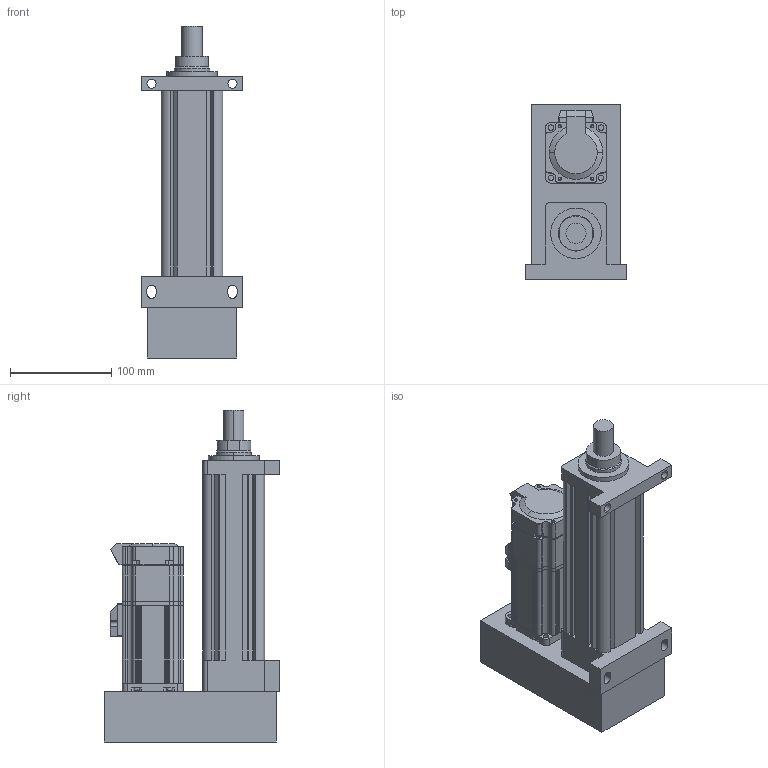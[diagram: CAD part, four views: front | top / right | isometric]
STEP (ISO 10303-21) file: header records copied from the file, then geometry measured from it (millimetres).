
FILE_DESCRIPTION (( 'STEP AP203' ), '1' );
FILE_NAME ('S2殏殿耜醱假蚾.STEP', '2024-05-27T05:10:22', ( '' ), ( '' ), 'SwSTEP 2.0', 'SolidWorks 2018', '' );
FILE_SCHEMA (( 'CONFIG_CONTROL_DESIGN' ));
Length unit declared in the file: millimetre
Products named in the file (3): S2殏殿耜醱; 陓豎400W 湍价陬; S2殏殿耜醱假蚾
Assembly tree (2 placements, depth 2):
  S2殏殿耜醱假蚾
    S2殏殿耜醱
    陓豎400W 湍价陬
Bounding box: 100 x 173.5 x 328 mm (x, y, z)
Volume: 1227649.8 mm3; surface area: 266440 mm2
Topology: 1 solids, 28 shells, 733 faces, 2107 edges, 1435 vertices
Faces by surface type: plane 367, cylinder 347, cone 11, torus 8
Entity records: 24473 total; most frequent: DIRECTION 4419, CARTESIAN_POINT 4381, ORIENTED_EDGE 3718, EDGE_CURVE 2107, AXIS2_PLACEMENT_3D 1589, VERTEX_POINT 1435, LINE 1241, VECTOR 1241
